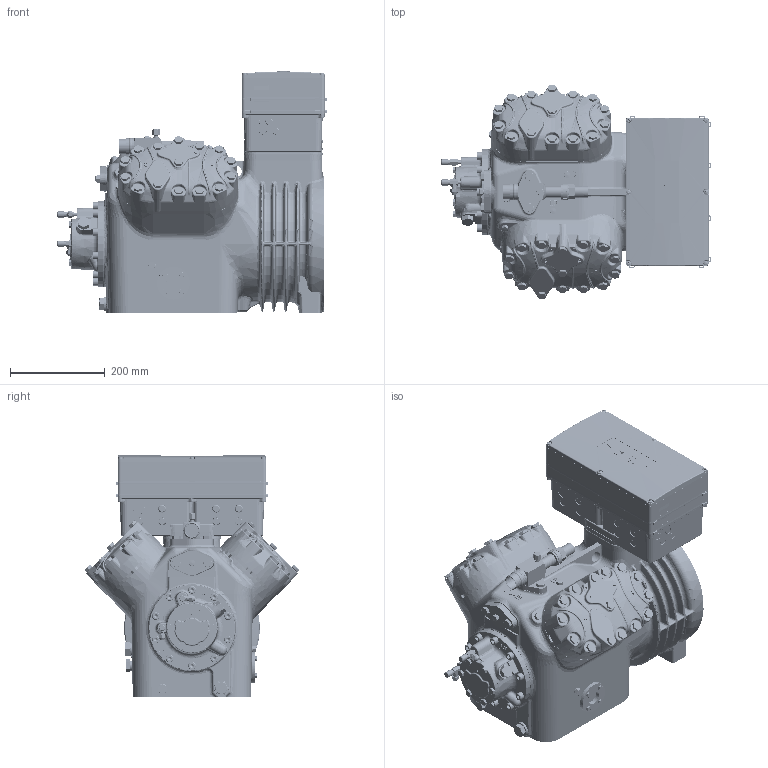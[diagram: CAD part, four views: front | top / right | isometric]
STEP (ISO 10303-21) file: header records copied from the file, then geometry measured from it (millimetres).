
FILE_DESCRIPTION(/* description */ (''),/* implementation_level */ '2;1');
FILE_NAME(/* name */ '4JE-4HE-4GE-4FE-Standard.stp',/* time_stamp */ '2024-06-26T16:21:27+02:00',/* author */ (''),/* organization */ (''),/* preprocessor_version */ 'ST-DEVELOPER v19.4',/* originating_system */ 'SIEMENS PLM Software NX2212.8901',/* authorisation */ '');
FILE_SCHEMA (('AUTOMOTIVE_DESIGN { 1 0 10303 214 3 1 1 1 }'));
Products named in the file (10): 200695847ugm001_00; 200696034ugm001_00; 200072024ugm001_02; 200621553ugm001_00; 200015977ugm001_03; 200050358ugm001_01; 200049633ugm001_00; 200047897ugm001_01; 200046903ugm001_04; 200046942ugm001_09
Assembly tree (10 placements, depth 2):
  200046942ugm001_09
    200046903ugm001_04
    200047897ugm001_01
    200049633ugm001_00
    200050358ugm001_01  x2
    200015977ugm001_03
    200621553ugm001_00
    200072024ugm001_02
    200696034ugm001_00
    200695847ugm001_00
Bounding box: 567.5 x 452.8 x 508.4 mm (x, y, z)
Volume: 64260995.8 mm3; surface area: 2115872.9 mm2
Topology: 10 solids, 85 shells, 10069 faces, 24782 edges, 15116 vertices
Faces by surface type: plane 3438, bspline 2473, cylinder 1676, cone 1293, torus 868, extrusion 179, sphere 132, revolution 10
Full cylindrical faces by diameter (mm): 3 x8, 4.51 x24, 4.8 x6, 4.826 x8, 5 x20, 6 x8, 6.5 x8, 7.938 x2, 8 x10, 8.481 x1, 8.5 x15, 8.782 x1, 8.9 x4, 9.5 x12, 10 x21, 10.2 x8, 10.287 x4, 10.29 x1, 10.5 x4, 11 x37, 11.2 x4, 13 x2, 13.716 x1, 14.059 x1, 15.6 x2, 16 x10, 17.145 x1, 20 x1, 21.34 x1, 24 x1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
Entity records: 343412 total; most frequent: CARTESIAN_POINT 116929, ORIENTED_EDGE 40718, DIRECTION 36452, EDGE_CURVE 20359, AXIS2_PLACEMENT_3D 14773, VERTEX_POINT 13057, EDGE_LOOP 10206, ADVANCED_FACE 8800
